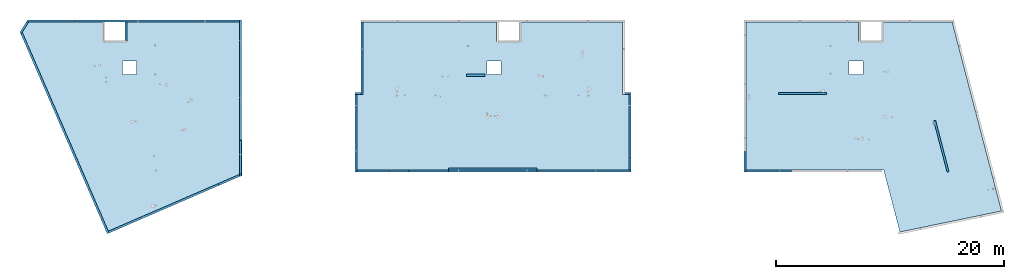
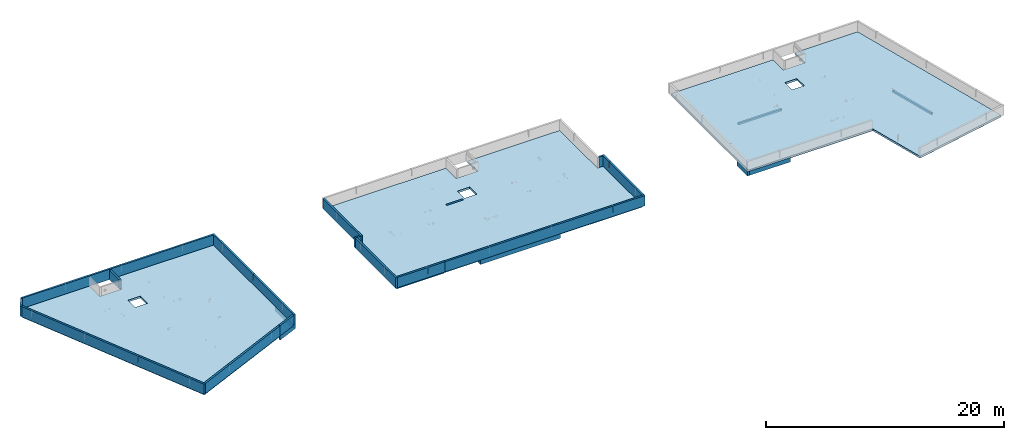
# One storey, part 1 of 12: 14 walls, 8 beams, 3 slabs, 3 openings.
"""IFC2X3 building model written with IfcOpenShell, lengths in centimetres."""

from ifc_helpers import new_model, entity, si_unit, converted_unit, derived_unit, direction, frame, frame_2d, origin, origin_2d_with_axis, place, context, subcontext, project, spatial, polyline, rectangle, outline, extrude, clip, halfspace, bounded_halfspace, faceted_brep, source, transform, mapped, material, layer, layer_set, layer_usage, type_object, type_shapes, element, save


model = new_model("IFC2X3")

# Units and contexts
model_context = context("Model", 3, precision=0.001, world=origin(), true_north=direction((6.12303176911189e-17, 1.0)))
body_context = subcontext(model_context, "Body", "Model", "MODEL_VIEW")
ifc_project = project(units=[si_unit("LENGTHUNIT", "METRE", prefix="CENTI"), si_unit("AREAUNIT", "SQUARE_METRE"), si_unit("VOLUMEUNIT", "CUBIC_METRE"), converted_unit("PLANEANGLEUNIT", "DEGREE", entity("IfcRatioMeasure", 0.0174532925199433), si_unit("PLANEANGLEUNIT", "RADIAN"), dimensions=[0, 0, 0, 0, 0, 0, 0]), si_unit("MASSUNIT", "GRAM", prefix="KILO"), derived_unit("MASSDENSITYUNIT", [(si_unit("MASSUNIT", "GRAM", prefix="KILO"), 1), (si_unit("LENGTHUNIT", "METRE"), -3)]), si_unit("TIMEUNIT", "SECOND"), si_unit("FREQUENCYUNIT", "HERTZ"), si_unit("THERMODYNAMICTEMPERATUREUNIT", "DEGREE_CELSIUS"), derived_unit("THERMALTRANSMITTANCEUNIT", [(si_unit("MASSUNIT", "GRAM", prefix="KILO"), 1), (si_unit("THERMODYNAMICTEMPERATUREUNIT", "KELVIN"), -1), (si_unit("TIMEUNIT", "SECOND"), -3)]), derived_unit("VOLUMETRICFLOWRATEUNIT", [(si_unit("LENGTHUNIT", "METRE"), 3), (si_unit("TIMEUNIT", "SECOND"), -1)]), si_unit("ELECTRICCURRENTUNIT", "AMPERE"), si_unit("ELECTRICVOLTAGEUNIT", "VOLT"), si_unit("POWERUNIT", "WATT"), si_unit("FORCEUNIT", "NEWTON"), si_unit("ILLUMINANCEUNIT", "LUX"), si_unit("LUMINOUSFLUXUNIT", "LUMEN"), si_unit("LUMINOUSINTENSITYUNIT", "CANDELA"), derived_unit("USERDEFINED", [(si_unit("MASSUNIT", "GRAM", prefix="KILO"), -1), (si_unit("LENGTHUNIT", "METRE"), -2), (si_unit("TIMEUNIT", "SECOND"), 3), (si_unit("LUMINOUSFLUXUNIT", "LUMEN"), 1)]), derived_unit("LINEARVELOCITYUNIT", [(si_unit("LENGTHUNIT", "METRE"), 1), (si_unit("TIMEUNIT", "SECOND"), -1)]), si_unit("PRESSUREUNIT", "PASCAL"), derived_unit("USERDEFINED", [(si_unit("LENGTHUNIT", "METRE"), -2), (si_unit("MASSUNIT", "GRAM", prefix="KILO"), 1), (si_unit("TIMEUNIT", "SECOND"), -2)])], contexts=[model_context])

# Site, building, storey
site_placement = place(None, origin())
site = spatial("IfcSite", under=ifc_project, at=site_placement, Name="Default", CompositionType="ELEMENT")
building_placement = place(site_placement, origin())
building = spatial("IfcBuilding", under=site, at=building_placement, Name="CAGE 03", CompositionType="ELEMENT")
storey_placement = place(building_placement, frame((0.0, 0.0, 1690.0)))
storey = spatial("IfcBuildingStorey", under=building, at=storey_placement, Name="R+6", CompositionType="ELEMENT", Elevation=1690.0)

# Beams
ifc_material_1 = material(Name="Béton, C25/30")
beam_type_1 = type_object("IfcBeamType", Name="BBGO-Poutre rect:18x44ht", PredefinedType="BEAM")
beam_1_placement = place(storey_placement, frame((4671.36582014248, 3683.3202150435, 0.0), z_axis=(0.0, 0.0, 1.0), x_axis=(0.917772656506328, 0.397106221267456, 0.0)))
element("IfcBeam", 1, at=beam_1_placement, inside=storey, type_object=beam_type_1, material=ifc_material_1, Name="BBGO-Poutre rect:18x44ht", ObjectType="BBGO-Poutre rect:18x44ht", context=body_context, shape_type="Clipping", body=[
    clip(extrude(rectangle(XDim=44.0, YDim=18.0000000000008, at=frame_2d((0.0, -3.97903932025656e-13), x_axis=(1.0, 0.0))), frame((5.91218747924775, 0.0, -22.0), z_axis=(1.0, 0.0, 0.0), x_axis=(0.0, 0.0, -1.0)), (0.0, 0.0, 1.0), 215.739702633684), halfspace(frame((13.7005127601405, 9.0, -20.0), z_axis=(-0.917772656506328, 0.397106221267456, 0.0), x_axis=(0.0, 0.0, 1.0)), False)),
])
beam_2_placement = place(storey_placement, frame((4869.36582014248, 3763.07960565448, 0.0), z_axis=(0.0, 0.0, 1.0), x_axis=(0.0, 1.0, 0.0)))
element("IfcBeam", 2, at=beam_2_placement, inside=storey, type_object=beam_type_1, material=ifc_material_1, Name="BBGO-Poutre rect:18x44ht", ObjectType="BBGO-Poutre rect:18x44ht", context=body_context, shape_type="Clipping", body=[
    clip(clip(extrude(rectangle(XDim=44.0, YDim=18.0000000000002, at=origin_2d_with_axis()), frame((0.0, 0.0, -22.0), z_axis=(1.0, 0.0, 0.0), x_axis=(0.0, 0.0, -1.0)), (0.0, 0.0, 1.0), 309.081060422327), bounded_halfspace(frame((0.0, -9.0, 0.0), z_axis=(-0.397106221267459, 0.917772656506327, 0.0), x_axis=(0.0, 0.0, -1.0)), False, frame((0.0, 0.0, -22.0), z_axis=(1.0, 0.0, 0.0), x_axis=(0.0, 0.0, -1.0)), polyline([(-22.0, -1.85208801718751), (22.0, -1.85208801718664), (22.0, -9.0), (-22.0, -9.0), (-22.0, -1.85208801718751)]))), bounded_halfspace(frame((16.5199078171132, -1.85208801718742, -44.0), z_axis=(-0.917772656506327, -0.397106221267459, 0.0), x_axis=(-0.397106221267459, 0.917772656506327, 0.0)), False, frame((0.0, 0.0, -22.0), z_axis=(1.0, 0.0, 0.0), x_axis=(0.0, 0.0, -1.0)), polyline([(22.0, -1.85208801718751), (-22.0, -1.85208801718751), (-22.0, 9.0), (-2.0, 9.0), (22.0, 9.0), (22.0, -1.85208801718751)]))),
])
beam_3_placement = place(storey_placement, frame((9293.36582014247, 3985.66066607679, 0.0), z_axis=(0.0, 0.0, 1.0), x_axis=(0.0, -1.0, 0.0)))
element("IfcBeam", 3, at=beam_3_placement, inside=storey, type_object=beam_type_1, material=ifc_material_1, Name="BBGO-Poutre rect:18x44ht", ObjectType="BBGO-Poutre rect:18x44ht", context=body_context, shape_type="SweptSolid", body=[
    extrude(rectangle(XDim=44.0, YDim=17.9999999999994, at=origin_2d_with_axis()), frame((9.0, 0.0, -22.0), z_axis=(1.0, 0.0, 0.0), x_axis=(0.0, 0.0, -1.0)), (0.0, 0.0, 1.0), 179.999999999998),
])
beam_4_placement = place(storey_placement, frame((9302.36582014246, 3805.6606660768, 0.0)))
element("IfcBeam", 4, at=beam_4_placement, inside=storey, type_object=beam_type_1, material=ifc_material_1, Name="BBGO-Poutre rect:18x44ht", ObjectType="BBGO-Poutre rect:18x44ht", context=body_context, shape_type="SweptSolid", body=[
    extrude(rectangle(XDim=44.0, YDim=18.0000000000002, at=frame_2d((0.0, 1.73283609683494e-12), x_axis=(1.0, 0.0))), frame((0.0, 0.0, -22.0), z_axis=(1.0, 0.0, 0.0), x_axis=(0.0, 0.0, -1.0)), (0.0, 0.0, 1.0), 401.000000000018),
])
beam_type_2 = type_object("IfcBeamType", Name="BBGO-Poutre rect:35x44ht", PredefinedType="BEAM")
beam_5_placement = place(storey_placement, frame((6682.36582014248, 3814.1606660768, 0.0)))
element("IfcBeam", 5, at=beam_5_placement, inside=storey, type_object=beam_type_2, material=ifc_material_1, Name="BBGO-Poutre rect:35x44ht", ObjectType="BBGO-Poutre rect:35x44ht", context=body_context, shape_type="SweptSolid", body=[
    extrude(outline(polyline([(-21.3333333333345, -17.6666666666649), (22.6666666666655, -17.6666666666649), (22.6666666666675, 17.333333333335), (-1.33333333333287, 17.3333333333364), (-1.33333333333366, 0.333333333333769), (-21.3333333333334, 0.33333333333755), (-21.3333333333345, -17.6666666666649)])), frame((9.0, 0.166666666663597, -21.3333333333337), z_axis=(1.0, 0.0, 0.0), x_axis=(0.0, 0.0, -1.0)), (0.0, 0.0, 1.0), 779.999999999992),
])
beam_type_3 = type_object("IfcBeamType", Name="BBGO-Poutre rect:18x40ht", PredefinedType="BEAM")
beam_6_placement = place(storey_placement, frame((9589.36582014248, 4483.66066607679, 0.0)))
element("IfcBeam", 6, at=beam_6_placement, inside=storey, type_object=beam_type_3, material=ifc_material_1, Name="BBGO-Poutre rect:18x40ht", ObjectType="BBGO-Poutre rect:18x40ht", context=body_context, shape_type="SweptSolid", body=[
    extrude(rectangle(XDim=20.0000000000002, YDim=18.0000000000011, at=frame_2d((0.0, 4.33431068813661e-13), x_axis=(1.0, 0.0))), frame((0.0, 0.0, -30.0), z_axis=(1.0, 0.0, 0.0), x_axis=(0.0, 0.0, -1.0)), (0.0, 0.0, 1.0), 421.000000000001),
])
beam_7_placement = place(storey_placement, frame((10955.4137383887, 4257.66066607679, 0.0), z_axis=(0.0, 0.0, 1.0), x_axis=(0.252679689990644, -0.967549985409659, 0.0)))
element("IfcBeam", 7, at=beam_7_placement, inside=storey, type_object=beam_type_3, material=ifc_material_1, Name="BBGO-Poutre rect:18x40ht", ObjectType="BBGO-Poutre rect:18x40ht", context=body_context, shape_type="Clipping", body=[
    clip(extrude(rectangle(XDim=20.0000000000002, YDim=17.9999999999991, at=frame_2d((0.0, 8.38440428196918e-13), x_axis=(1.0, 0.0))), frame((6.95145769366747, 0.0, -30.0), z_axis=(1.0, 0.0, 0.0), x_axis=(0.0, 0.0, -1.0)), (0.0, 0.0, 1.0), 470.417045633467), halfspace(frame((253.135217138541, 933.676053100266, -270.0), z_axis=(-0.967549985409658, 0.252679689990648, 0.0), x_axis=(0.252679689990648, 0.967549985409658, 0.0)), False)),
])
beam_type_4 = type_object("IfcBeamType", Name="20x20ht", PredefinedType="BEAM", material=ifc_material_1)
shared_shape = source(origin(), body_context, "Body", "Brep", [
    faceted_brep([(164.0, 0.0, 20.0), (164.0, 0.0, 0.0), (164.0, 20.0, 0.0), (164.0, 20.0, 20.0), (0.0, 0.0, 20.0), (0.0, 20.0, 20.0), (0.0, 20.0, 0.0), (0.0, 0.0, 0.0)], [[[0, 1, 2, 3]], [[4, 5, 6, 7]], [[1, 0, 4, 7]], [[2, 1, 7, 6]], [[3, 2, 6, 5]], [[0, 3, 5, 4]]]),
])
type_shapes(beam_type_4, [shared_shape])
beam_8_placement = place(storey_placement, frame((6849.36582014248, 4632.6606660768, -20.0)))
element("IfcBeam", 8, at=beam_8_placement, inside=storey, type_object=beam_type_4, material=ifc_material_1, Name="BBGO-Poutre rect:20x20ht", ObjectType="20x20ht", context=body_context, shape_type="MappedRepresentation", body=[
    mapped(shared_shape, transform((0.0, 0.0, 0.0), scale=1.0)),
])

# Slab, opening
ifc_layer_1 = layer(ifc_material_1, 20.0)
ifc_layer_set_1 = layer_set([ifc_layer_1], Name="Sol:Dalle Béton - 20 cm")
ifc_layer_usage_1 = layer_usage(ifc_layer_set_1, "AXIS3", "POSITIVE", 0.0)
slab_1_placement = place(storey_placement, frame((2953.22966369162, 3271.32147083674, -20.0)))
slab_1 = element("IfcSlab", 9, at=slab_1_placement, inside=storey, material=ifc_layer_usage_1, Name="Sol:Dalle Béton - 20 cm", ObjectType="Sol:Dalle Béton - 20 cm", PredefinedType="FLOOR", context=body_context, shape_type="SweptSolid", body=[
    extrude(outline(polyline([(246.93192177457, 919.669597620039), (246.931921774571, 747.169597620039), (36.4319217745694, 747.169597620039), (36.4319217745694, 919.66959762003), (-953.56807822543, 919.66959762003), (-953.56807822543, -416.087087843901), (-773.568078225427, -493.970340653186), (-773.568078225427, -499.963110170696), (196.437218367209, -919.669597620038), (953.568078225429, 830.174558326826), (897.370022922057, 919.669597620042), (246.93192177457, 919.669597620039)])), frame((953.568078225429, 919.669597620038, 20.0), z_axis=(0.0, 0.0, -1.0), x_axis=(-1.0, 0.0, 0.0)), (0.0, 0.0, 1.0), 20.0),
])
opening_1_placement = place(slab_1_placement, origin())
element("IfcOpeningElement", 10, at=opening_1_placement, cuts=slab_1, ObjectType="Opening", context=body_context, shape_type="SweptSolid", body=[
    extrude(rectangle(XDim=120.0, YDim=120.0, at=origin_2d_with_axis()), frame((941.136156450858, 1439.33919524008, -254.327930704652), z_axis=(0.0, 0.0, 1.0), x_axis=(-1.0, 0.0, 0.0)), (0.0, 0.0, 1.0), 493.425926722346),
])

ifc_layer_usage_2 = layer_usage(ifc_layer_set_1, "AXIS3", "POSITIVE", 0.0)
slab_2_placement = place(storey_placement, frame((5888.36582014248, 3809.1606660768, -20.0)))
slab_2 = element("IfcSlab", 11, at=slab_2_placement, inside=storey, material=ifc_layer_usage_2, Name="Sol:Dalle Béton - 20 cm", ObjectType="Sol:Dalle Béton - 20 cm", PredefinedType="FLOOR", context=body_context, shape_type="SweptSolid", body=[
    extrude(outline(polyline([(-34.0, 478.249999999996), (-244.500000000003, 478.249999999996), (-244.500000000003, 650.749999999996), (-1140.0, 650.749999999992), (-1140.0, 14.7499999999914), (-1193.0, 14.7499999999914), (-1193.0, -645.250000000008), (734.0, -645.250000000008), (734.0, -650.750000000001), (1193.0, -650.75), (1193.0, 14.7499999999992), (1140.0, 14.7499999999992), (1140.0, 650.750000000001), (-34.0, 650.749999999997), (-34.0, 478.249999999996)])), frame((1193.0, 650.750000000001, 20.0), z_axis=(0.0, 0.0, -1.0), x_axis=(-1.0, 0.0, 0.0)), (0.0, 0.0, 1.0), 20.0),
])
opening_2_placement = place(slab_2_placement, origin())
element("IfcOpeningElement", 12, at=opening_2_placement, cuts=slab_2, ObjectType="Opening", context=body_context, shape_type="SweptSolid", body=[
    extrude(rectangle(XDim=120.0, YDim=120.0, at=origin_2d_with_axis()), frame((1203.0, 901.499999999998, -254.327930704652), z_axis=(0.0, 0.0, 1.0), x_axis=(-1.0, 0.0, 0.0)), (0.0, 0.0, 1.0), 493.425926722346),
])

ifc_layer_usage_3 = layer_usage(ifc_layer_set_1, "AXIS3", "POSITIVE", 0.0)
slab_3_placement = place(storey_placement, frame((9302.36582014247, 3268.40720591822, -20.0)))
slab_3 = element("IfcSlab", 13, at=slab_3_placement, inside=storey, material=ifc_layer_usage_3, Name="Sol:Dalle Béton - 20 cm", ObjectType="Sol:Dalle Béton - 20 cm", PredefinedType="FLOOR", context=body_context, shape_type="SweptSolid", body=[
    extrude(outline(polyline([(131.604759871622, 921.126730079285), (131.604759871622, 748.626730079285), (-78.8952401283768, 748.626730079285), (-78.8952401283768, 921.126730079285), (-688.504009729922, 921.126730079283), (-1121.60475987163, -737.283664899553), (-229.613023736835, -921.126730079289), (-86.9566679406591, -374.873269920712), (1121.60475987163, -374.873269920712), (1121.60475987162, 921.126730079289), (131.604759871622, 921.126730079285)])), frame((1121.60475987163, 921.126730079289, 20.0), z_axis=(0.0, 0.0, -1.0), x_axis=(-1.0, 0.0, 0.0)), (0.0, 0.0, 1.0), 20.0),
])
opening_3_placement = place(slab_3_placement, origin())
element("IfcOpeningElement", 14, at=opening_3_placement, cuts=slab_3, ObjectType="Opening", context=body_context, shape_type="SweptSolid", body=[
    extrude(rectangle(XDim=120.0, YDim=120.0, at=origin_2d_with_axis()), frame((966.0, 1442.25346015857, -254.327930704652), z_axis=(0.0, 0.0, 1.0), x_axis=(-1.0, 0.0, 0.0)), (0.0, 0.0, 1.0), 493.425926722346),
])

# Walls
ifc_layer_2 = layer(ifc_material_1, 18.0)
ifc_layer_set_2 = layer_set([ifc_layer_2], Name="Mur de base:Voile BA 18")
ifc_layer_usage_4 = layer_usage(ifc_layer_set_2, "AXIS2", "POSITIVE", -9.0)
wall_type_1 = type_object("IfcWallType", Name="Mur de base:Voile BA 18", PredefinedType="STANDARD", material=ifc_layer_set_2)
wall_1_placement = place(storey_placement, frame((4869.36582014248, 3755.29128037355, 0.0), z_axis=(0.0, 0.0, 1.0), x_axis=(0.0, 1.0, 0.0)))
element("IfcWallStandardCase", 15, at=wall_1_placement, inside=storey, type_object=wall_type_1, material=ifc_layer_usage_4, Name="Mur de base:Voile BA 18", ObjectType="Mur de base:Voile BA 18", context=body_context, shape_type="Clipping", body=[
    clip(clip(clip(extrude(outline(polyline([(1373.36938570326, -9.0), (1373.36938570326, 9.0), (1355.36938570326, 9.0), (316.869385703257, 9.0), (19.6127002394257, 9.0), (0.0, 9.0), (7.78832528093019, -9.0), (316.869385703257, -9.0), (1373.36938570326, -9.0)])), origin(), (0.0, 0.0, 1.0), 105.0), bounded_halfspace(frame((194.369385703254, -9.0, 40.0), z_axis=(0.0, 0.0, -1.0), x_axis=(0.0, -1.0, 0.0)), True, frame((194.369385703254, -9.0, 40.0), z_axis=(0.0, 0.0, -1.0), x_axis=(0.0, -1.0, 0.0)), polyline([(0.0, 0.0), (0.0, 2.0), (-18.0, 2.0), (-18.0, 0.0), (0.0, 0.0)]))), bounded_halfspace(frame((694.369385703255, -9.0, 40.0), z_axis=(0.0, 0.0, -1.0), x_axis=(0.0, -1.0, 0.0)), True, frame((694.369385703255, -9.0, 40.0), z_axis=(0.0, 0.0, -1.0), x_axis=(0.0, -1.0, 0.0)), polyline([(0.0, 0.0), (0.0, 2.0), (-18.0, 2.0), (-18.0, 0.0), (0.0, 0.0)]))), bounded_halfspace(frame((1194.36938570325, -9.0, 40.0), z_axis=(0.0, 0.0, -1.0), x_axis=(0.0, -1.0, 0.0)), True, frame((1194.36938570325, -9.0, 40.0), z_axis=(0.0, 0.0, -1.0), x_axis=(0.0, -1.0, 0.0)), polyline([(0.0, 0.0), (0.0, 2.0), (-18.0, 2.0), (-18.0, 0.0), (0.0, 0.0)]))),
])
ifc_layer_usage_5 = layer_usage(ifc_layer_set_2, "AXIS2", "NEGATIVE", 9.0)
wall_2_placement = place(storey_placement, frame((2988.17310873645, 5119.66066607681, 0.0)))
element("IfcWallStandardCase", 16, at=wall_2_placement, inside=storey, type_object=wall_type_1, material=ifc_layer_usage_5, Name="Mur de base:Voile BA 18", ObjectType="Mur de base:Voile BA 18", context=body_context, shape_type="Clipping", body=[
    clip(clip(clip(extrude(outline(polyline([(1872.19271140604, -9.0), (1872.19271140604, 9.0), (1155.19271140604, 9.0), (675.192711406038, 9.0), (11.3030286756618, 9.0), (0.0, -9.0), (21.2546102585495, -9.0), (666.19271140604, -9.0), (675.192711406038, -9.0), (684.19271140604, -9.0), (864.192711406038, -9.0), (882.192711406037, -9.0), (1155.19271140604, -9.0), (1872.19271140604, -9.0)])), origin(), (0.0, 0.0, 1.0), 105.0), bounded_halfspace(frame((1566.19271140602, 9.0, 40.0), z_axis=(0.0, 0.0, -1.0), x_axis=(0.0, 1.0, 0.0)), True, frame((1566.19271140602, 9.0, 40.0), z_axis=(0.0, 0.0, -1.0), x_axis=(0.0, 1.0, 0.0)), polyline([(0.0, 0.0), (0.0, 2.0), (-18.0, 2.0), (-18.0, 0.0), (0.0, 0.0)]))), bounded_halfspace(frame((979.192711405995, 9.0, 40.0), z_axis=(0.0, 0.0, -1.0), x_axis=(0.0, 1.0, 0.0)), True, frame((979.192711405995, 9.0, 40.0), z_axis=(0.0, 0.0, -1.0), x_axis=(0.0, 1.0, 0.0)), polyline([(0.0, 0.0), (0.0, 2.0), (-18.0, 2.0), (-18.0, 0.0), (0.0, 0.0)]))), bounded_halfspace(frame((437.192711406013, 9.0, 40.0), z_axis=(0.0, 0.0, -1.0), x_axis=(0.0, 1.0, 0.0)), True, frame((437.192711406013, 9.0, 40.0), z_axis=(0.0, 0.0, -1.0), x_axis=(0.0, 1.0, 0.0)), polyline([(0.0, 0.0), (0.0, 2.0), (-18.0, 2.0), (-18.0, 0.0), (0.0, 0.0)]))),
])
ifc_layer_usage_6 = layer_usage(ifc_layer_set_2, "AXIS2", "NEGATIVE", 9.0)
wall_3_placement = place(storey_placement, frame((2933.9960963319, 5007.46020989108, 0.0), z_axis=(0.0, 0.0, 1.0), x_axis=(0.53179185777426, 0.846875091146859, 0.0)))
element("IfcWallStandardCase", 17, at=wall_3_placement, inside=storey, type_object=wall_type_1, material=ifc_layer_usage_6, Name="Mur de base:Voile BA 18", ObjectType="Mur de base:Voile BA 18", context=body_context, shape_type="SweptSolid", body=[
    extrude(outline(polyline([(127.511818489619, -9.0), (116.208789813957, 9.0), (12.3599581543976, 9.0), (0.0, -9.0), (21.8350306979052, -9.0), (127.511818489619, -9.0)])), origin(), (0.0, 0.0, 1.0), 105.0),
])
ifc_layer_usage_7 = layer_usage(ifc_layer_set_2, "AXIS2", "NEGATIVE", 9.0)
wall_4_placement = place(storey_placement, frame((3707.06439740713, 3256.275356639, 0.0), z_axis=(0.0, 0.0, 1.0), x_axis=(-0.397106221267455, 0.917772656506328, 0.0)))
element("IfcWallStandardCase", 18, at=wall_4_placement, inside=storey, type_object=wall_type_1, material=ifc_layer_usage_7, Name="Mur de base:Voile BA 18", ObjectType="Mur de base:Voile BA 18", context=body_context, shape_type="Clipping", body=[
    clip(clip(clip(clip(extrude(outline(polyline([(1919.12049423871, -9.0), (1906.76053608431, 9.0), (0.0, 9.0), (0.0, -9.0), (18.0, -9.0), (1919.12049423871, -9.0)])), origin(), (0.0, 0.0, 1.0), 105.0), bounded_halfspace(frame((1803.5, -9.0, 40.0), z_axis=(0.0, 0.0, -1.0), x_axis=(0.0, -1.0, 0.0)), True, frame((1803.5, -9.0, 40.0), z_axis=(0.0, 0.0, -1.0), x_axis=(0.0, -1.0, 0.0)), polyline([(0.0, 0.0), (0.0, 2.0), (-18.0, 2.0), (-18.0, 0.0), (0.0, 0.0)]))), bounded_halfspace(frame((1256.0, -9.0, 40.0), z_axis=(0.0, 0.0, -1.0), x_axis=(0.0, -1.0, 0.0)), True, frame((1256.0, -9.0, 40.0), z_axis=(0.0, 0.0, -1.0), x_axis=(0.0, -1.0, 0.0)), polyline([(0.0, 0.0), (0.0, 2.0), (-18.0, 2.0), (-18.0, 0.0), (0.0, 0.0)]))), bounded_halfspace(frame((697.499999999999, -9.0, 40.0), z_axis=(0.0, 0.0, -1.0), x_axis=(0.0, -1.0, 0.0)), True, frame((697.499999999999, -9.0, 40.0), z_axis=(0.0, 0.0, -1.0), x_axis=(0.0, -1.0, 0.0)), polyline([(0.0, 0.0), (0.0, 2.0), (-18.0, 2.0), (-18.0, 0.0), (0.0, 0.0)]))), bounded_halfspace(frame((150.499999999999, -9.0, 40.0), z_axis=(0.0, 0.0, -1.0), x_axis=(0.0, -1.0, 0.0)), True, frame((150.499999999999, -9.0, 40.0), z_axis=(0.0, 0.0, -1.0), x_axis=(0.0, -1.0, 0.0)), polyline([(0.0, 0.0), (0.0, 2.0), (-18.0, 2.0), (-18.0, 0.0), (0.0, 0.0)]))),
])
ifc_layer_usage_8 = layer_usage(ifc_layer_set_2, "AXIS2", "POSITIVE", -9.0)
wall_5_placement = place(storey_placement, frame((8283.36582014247, 3814.6606660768, 0.0), z_axis=(0.0, 0.0, 1.0), x_axis=(0.0, 1.0, 0.0)))
element("IfcWallStandardCase", 19, at=wall_5_placement, inside=storey, type_object=wall_type_1, material=ifc_layer_usage_8, Name="Mur de base:Voile BA 18", ObjectType="Mur de base:Voile BA 18", context=body_context, shape_type="Clipping", body=[
    clip(clip(extrude(rectangle(XDim=677.999999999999, YDim=17.9999999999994, at=frame_2d((339.0, 1.58095758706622e-13), x_axis=(-1.0, 0.0))), origin(), (0.0, 0.0, 1.0), 105.0), bounded_halfspace(frame((565.0, -9.0, 40.0), z_axis=(0.0, 0.0, -1.0), x_axis=(0.0, -1.0, 0.0)), True, frame((565.0, -9.0, 40.0), z_axis=(0.0, 0.0, -1.0), x_axis=(0.0, -1.0, 0.0)), polyline([(0.0, 0.0), (0.0, 2.0), (-18.0, 2.0), (-18.0, 0.0), (0.0, 0.0)]))), bounded_halfspace(frame((115.0, -9.0, 40.0), z_axis=(0.0, 0.0, -1.0), x_axis=(0.0, -1.0, 0.0)), True, frame((115.0, -9.0, 40.0), z_axis=(0.0, 0.0, -1.0), x_axis=(0.0, -1.0, 0.0)), polyline([(0.0, 0.0), (0.0, 2.0), (-18.0, 2.0), (-18.0, 0.0), (0.0, 0.0)]))),
])
ifc_layer_usage_9 = layer_usage(ifc_layer_set_2, "AXIS2", "NEGATIVE", 9.0)
wall_6_placement = place(storey_placement, frame((5870.36582014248, 4483.6606660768, 0.0)))
element("IfcWallStandardCase", 20, at=wall_6_placement, inside=storey, type_object=wall_type_1, material=ifc_layer_usage_9, Name="Mur de base:Voile BA 18", ObjectType="Mur de base:Voile BA 18", context=body_context, shape_type="SweptSolid", body=[
    extrude(rectangle(XDim=53.0000000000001, YDim=17.9999999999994, at=frame_2d((26.5, 8.70414851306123e-14), x_axis=(-1.0, 0.0))), origin(), (0.0, 0.0, 1.0), 105.0),
])
ifc_layer_usage_10 = layer_usage(ifc_layer_set_2, "AXIS2", "POSITIVE", -9.0)
wall_7_placement = place(storey_placement, frame((5932.36582014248, 5110.6606660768, 0.0), z_axis=(0.0, 0.0, 1.0), x_axis=(0.0, -1.0, 0.0)))
element("IfcWallStandardCase", 21, at=wall_7_placement, inside=storey, type_object=wall_type_1, material=ifc_layer_usage_10, Name="Mur de base:Voile BA 18", ObjectType="Mur de base:Voile BA 18", context=body_context, shape_type="Clipping", body=[
    clip(extrude(rectangle(XDim=635.999999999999, YDim=17.9999999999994, at=frame_2d((318.0, 4.08562073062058e-14), x_axis=(-1.0, 0.0))), origin(), (0.0, 0.0, 1.0), 105.0), bounded_halfspace(frame((235.499999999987, 9.0, 40.0), z_axis=(0.0, 0.0, -1.0), x_axis=(0.0, 1.0, 0.0)), True, frame((235.499999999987, 9.0, 40.0), z_axis=(0.0, 0.0, -1.0), x_axis=(0.0, 1.0, 0.0)), polyline([(0.0, 0.0), (0.0, 2.0), (-18.0, 2.0), (-18.0, 0.0), (0.0, 0.0)]))),
])
ifc_layer_usage_11 = layer_usage(ifc_layer_set_2, "AXIS2", "POSITIVE", -9.0)
wall_8_placement = place(storey_placement, frame((5879.36582014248, 4474.6606660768, 0.0), z_axis=(0.0, 0.0, 1.0), x_axis=(0.0, -1.0, 0.0)))
element("IfcWallStandardCase", 22, at=wall_8_placement, inside=storey, type_object=wall_type_1, material=ifc_layer_usage_11, Name="Mur de base:Voile BA 18", ObjectType="Mur de base:Voile BA 18", context=body_context, shape_type="Clipping", body=[
    clip(clip(extrude(rectangle(XDim=677.999999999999, YDim=17.9999999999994, at=frame_2d((339.0, 7.19424519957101e-14), x_axis=(-1.0, 0.0))), origin(), (0.0, 0.0, 1.0), 105.0), bounded_halfspace(frame((495.0, 9.0, 40.0), z_axis=(0.0, 0.0, -1.0), x_axis=(0.0, 1.0, 0.0)), True, frame((495.0, 9.0, 40.0), z_axis=(0.0, 0.0, -1.0), x_axis=(0.0, 1.0, 0.0)), polyline([(0.0, 0.0), (0.0, 2.0), (-18.0, 2.0), (-18.0, 0.0), (0.0, 0.0)]))), bounded_halfspace(frame((95.0, 9.0, 40.0), z_axis=(0.0, 0.0, -1.0), x_axis=(0.0, 1.0, 0.0)), True, frame((95.0, 9.0, 40.0), z_axis=(0.0, 0.0, -1.0), x_axis=(0.0, 1.0, 0.0)), polyline([(0.0, 0.0), (0.0, 2.0), (-18.0, 2.0), (-18.0, 0.0), (0.0, 0.0)]))),
])
ifc_layer_usage_12 = layer_usage(ifc_layer_set_2, "AXIS2", "NEGATIVE", 9.0)
wall_9_placement = place(storey_placement, frame((8239.36582014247, 4483.6606660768, 0.0)))
element("IfcWallStandardCase", 23, at=wall_9_placement, inside=storey, type_object=wall_type_1, material=ifc_layer_usage_12, Name="Mur de base:Voile BA 18", ObjectType="Mur de base:Voile BA 18", context=body_context, shape_type="SweptSolid", body=[
    extrude(rectangle(XDim=35.0000000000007, YDim=17.9999999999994, at=frame_2d((17.5000000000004, 5.77315972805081e-14), x_axis=(-1.0, 0.0))), origin(), (0.0, 0.0, 1.0), 105.0),
])
ifc_layer_usage_13 = layer_usage(ifc_layer_set_2, "AXIS2", "POSITIVE", -9.0)
wall_10_placement = place(storey_placement, frame((4676.79186415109, 3685.66798147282, 0.0), z_axis=(0.0, 0.0, 1.0), x_axis=(0.917772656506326, 0.39710622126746, 0.0)))
element("IfcWallStandardCase", 24, at=wall_10_placement, inside=storey, type_object=wall_type_1, material=ifc_layer_usage_13, Name="Mur de base:Voile BA 18", ObjectType="Mur de base:Voile BA 18", context=body_context, shape_type="SweptSolid", body=[
    extrude(outline(polyline([(196.127002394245, -9.0), (203.915327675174, 9.0), (7.78832528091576, 9.0), (0.0, 9.0), (0.0, -9.0), (196.127002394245, -9.0)])), origin(), (0.0, 0.0, 1.0), 105.0),
])
ifc_layer_usage_14 = layer_usage(ifc_layer_set_2, "AXIS2", "POSITIVE", -9.0)
wall_11_placement = place(storey_placement, frame((6347.36582014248, 3805.6606660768, 0.0)))
element("IfcWallStandardCase", 25, at=wall_11_placement, inside=storey, type_object=wall_type_1, material=ifc_layer_usage_14, Name="Mur de base:Voile BA 18", ObjectType="Mur de base:Voile BA 18", context=body_context, shape_type="Clipping", body=[
    clip(clip(clip(extrude(rectangle(XDim=1944.99999999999, YDim=18.0000000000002, at=frame_2d((972.499999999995, 4.70734562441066e-14), x_axis=(-1.0, 0.0))), origin(), (0.0, 0.0, 1.0), 105.0), bounded_halfspace(frame((1633.0, 9.0, 40.0), z_axis=(0.0, 0.0, -1.0), x_axis=(0.0, 1.0, 0.0)), True, frame((1633.0, 9.0, 40.0), z_axis=(0.0, 0.0, -1.0), x_axis=(0.0, 1.0, 0.0)), polyline([(0.0, 0.0), (0.0, 2.0), (-18.0, 2.0), (-18.0, 0.0), (0.0, 0.0)]))), bounded_halfspace(frame((1033.0, 9.0, 40.0), z_axis=(0.0, 0.0, -1.0), x_axis=(0.0, 1.0, 0.0)), True, frame((1033.0, 9.0, 40.0), z_axis=(0.0, 0.0, -1.0), x_axis=(0.0, 1.0, 0.0)), polyline([(0.0, 0.0), (0.0, 2.0), (-18.0, 2.0), (-18.0, 0.0), (0.0, 0.0)]))), bounded_halfspace(frame((433.0, 9.0, 40.0), z_axis=(0.0, 0.0, -1.0), x_axis=(0.0, 1.0, 0.0)), True, frame((433.0, 9.0, 40.0), z_axis=(0.0, 0.0, -1.0), x_axis=(0.0, 1.0, 0.0)), polyline([(0.0, 0.0), (0.0, 2.0), (-18.0, 2.0), (-18.0, 0.0), (0.0, 0.0)]))),
])
ifc_material_2 = material(Name="Béton, panneaux préfa 30/37")
ifc_layer_3 = layer(ifc_material_2, 5.5)
ifc_layer_4 = layer(ifc_material_1, 7.0)
ifc_layer_5 = layer(ifc_material_2, 5.5)
ifc_layer_set_3 = layer_set([ifc_layer_3, ifc_layer_4, ifc_layer_5], Name="Mur de base:premur 18")
ifc_layer_usage_15 = layer_usage(ifc_layer_set_3, "AXIS2", "POSITIVE", -9.0)
wall_type_2 = type_object("IfcWallType", Name="Mur de base:premur 18", PredefinedType="NOTDEFINED")
wall_12_placement = place(storey_placement, frame((3711.75039532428, 3268.10926653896, 0.0), z_axis=(0.0, 0.0, 1.0), x_axis=(0.917772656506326, 0.39710622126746, 0.0)))
element("IfcWallStandardCase", 26, at=wall_12_placement, inside=storey, type_object=wall_type_2, material=ifc_layer_usage_15, Name="Mur de base:premur 18", ObjectType="Mur de base:premur 18", context=body_context, shape_type="Clipping", body=[
    clip(clip(extrude(rectangle(XDim=1051.50383592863, YDim=18.0000000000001, at=frame_2d((525.751917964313, 4.2632564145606e-14), x_axis=(-1.0, 0.0))), origin(), (0.0, 0.0, 1.0), 105.0), bounded_halfspace(frame((331.0, 9.0, 40.0), z_axis=(0.0, 0.0, -1.0), x_axis=(0.0, 1.0, 0.0)), True, frame((331.0, 9.0, 40.0), z_axis=(0.0, 0.0, -1.0), x_axis=(0.0, 1.0, 0.0)), polyline([(0.0, 0.0), (0.0, 2.0), (-18.0, 2.0), (-18.0, 0.0), (0.0, 0.0)]))), bounded_halfspace(frame((931.0, 9.0, 40.0), z_axis=(0.0, 0.0, -1.0), x_axis=(0.0, 1.0, 0.0)), True, frame((931.0, 9.0, 40.0), z_axis=(0.0, 0.0, -1.0), x_axis=(0.0, 1.0, 0.0)), polyline([(0.0, 0.0), (0.0, 2.0), (-18.0, 2.0), (-18.0, 0.0), (0.0, 0.0)]))),
])
ifc_layer_usage_16 = layer_usage(ifc_layer_set_3, "AXIS2", "POSITIVE", -9.0)
wall_13_placement = place(storey_placement, frame((5888.36582014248, 3805.66066607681, 0.0)))
element("IfcWallStandardCase", 27, at=wall_13_placement, inside=storey, type_object=wall_type_2, material=ifc_layer_usage_16, Name="Mur de base:premur 18", ObjectType="Mur de base:premur 18", context=body_context, shape_type="Clipping", body=[
    clip(extrude(rectangle(XDim=459.000000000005, YDim=18.0000000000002, at=frame_2d((229.500000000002, -1.3944401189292e-13), x_axis=(-1.0, 0.0))), origin(), (0.0, 0.0, 1.0), 105.0), bounded_halfspace(frame((292.0, 9.0, 40.0), z_axis=(0.0, 0.0, -1.0), x_axis=(0.0, 1.0, 0.0)), True, frame((292.0, 9.0, 40.0), z_axis=(0.0, 0.0, -1.0), x_axis=(0.0, 1.0, 0.0)), polyline([(0.0, 0.0), (0.0, 2.0), (-18.0, 2.0), (-18.0, 0.0), (0.0, 0.0)]))),
])
ifc_layer_usage_17 = layer_usage(ifc_layer_set_3, "AXIS2", "POSITIVE", -9.0)
wall_14_placement = place(storey_placement, frame((3861.36582014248, 4950.66066607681, 0.0), z_axis=(0.0, 0.0, 1.0), x_axis=(0.0, 1.0, 0.0)))
element("IfcWallStandardCase", 28, at=wall_14_placement, inside=storey, type_object=wall_type_2, material=ifc_layer_usage_17, Name="Mur de base:premur 18", ObjectType="Mur de base:premur 18", context=body_context, shape_type="SweptSolid", body=[
    extrude(rectangle(XDim=159.999999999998, YDim=18.0000000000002, at=frame_2d((79.9999999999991, 1.77635683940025e-13), x_axis=(-1.0, 0.0))), origin(), (0.0, 0.0, 1.0), 95.0000000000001),
])

save(model, "model.ifc")
